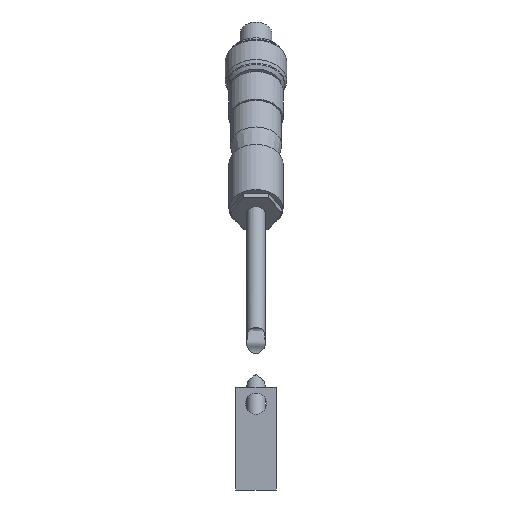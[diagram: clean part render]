
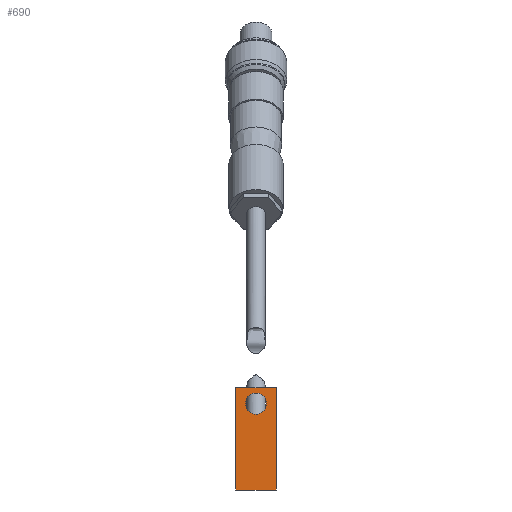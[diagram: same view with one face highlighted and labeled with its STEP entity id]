
A CAD part, front view. The second image highlights one B-rep face of the part: STEP entity #690.
In plain terms, the highlighted planar face has unit normal (0, -1, 0).
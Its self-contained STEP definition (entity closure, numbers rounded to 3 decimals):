
#91=LINE('',#1077,#136);
#93=LINE('',#1081,#138);
#94=LINE('',#1083,#139);
#95=LINE('',#1084,#140);
#136=VECTOR('',#861,16.);
#138=VECTOR('',#865,6.3);
#139=VECTOR('',#866,16.);
#140=VECTOR('',#867,6.3);
#168=PLANE('',#748);
#192=FACE_BOUND('',#278,.T.);
#193=FACE_BOUND('',#279,.T.);
#278=EDGE_LOOP('',(#551));
#279=EDGE_LOOP('',(#552,#553,#554,#555));
#347=CIRCLE('',#739,1.65);
#375=VERTEX_POINT('',#1030);
#391=VERTEX_POINT('',#1074);
#392=VERTEX_POINT('',#1076);
#393=VERTEX_POINT('',#1080);
#394=VERTEX_POINT('',#1082);
#437=EDGE_CURVE('',#375,#375,#347,.T.);
#459=EDGE_CURVE('',#392,#391,#91,.T.);
#461=EDGE_CURVE('',#391,#393,#93,.T.);
#462=EDGE_CURVE('',#394,#393,#94,.T.);
#463=EDGE_CURVE('',#394,#392,#95,.T.);
#551=ORIENTED_EDGE('',*,*,#437,.T.);
#552=ORIENTED_EDGE('',*,*,#461,.T.);
#553=ORIENTED_EDGE('',*,*,#462,.F.);
#554=ORIENTED_EDGE('',*,*,#463,.T.);
#555=ORIENTED_EDGE('',*,*,#459,.T.);
#690=ADVANCED_FACE('',(#192,#193),#168,.T.);
#739=AXIS2_PLACEMENT_3D('',#1031,#823,#824);
#748=AXIS2_PLACEMENT_3D('',#1079,#863,#864);
#823=DIRECTION('center_axis',(0.,1.,0.));
#824=DIRECTION('ref_axis',(1.,0.,0.));
#861=DIRECTION('',(0.,0.,1.));
#863=DIRECTION('center_axis',(0.,-1.,0.));
#864=DIRECTION('ref_axis',(0.,0.,-1.));
#865=DIRECTION('',(-1.,0.,0.));
#866=DIRECTION('',(0.,0.,1.));
#867=DIRECTION('',(1.,0.,0.));
#1030=CARTESIAN_POINT('',(-1.65,0.,13.5));
#1031=CARTESIAN_POINT('Origin',(0.,0.,13.5));
#1074=CARTESIAN_POINT('',(3.15,0.,16.));
#1076=CARTESIAN_POINT('',(3.15,0.,0.));
#1077=CARTESIAN_POINT('',(3.15,0.,0.));
#1079=CARTESIAN_POINT('Origin',(3.15,0.,0.));
#1080=CARTESIAN_POINT('',(-3.15,0.,16.));
#1081=CARTESIAN_POINT('',(-3.15,0.,16.));
#1082=CARTESIAN_POINT('',(-3.15,0.,0.));
#1083=CARTESIAN_POINT('',(-3.15,0.,0.));
#1084=CARTESIAN_POINT('',(-3.15,0.,0.));
